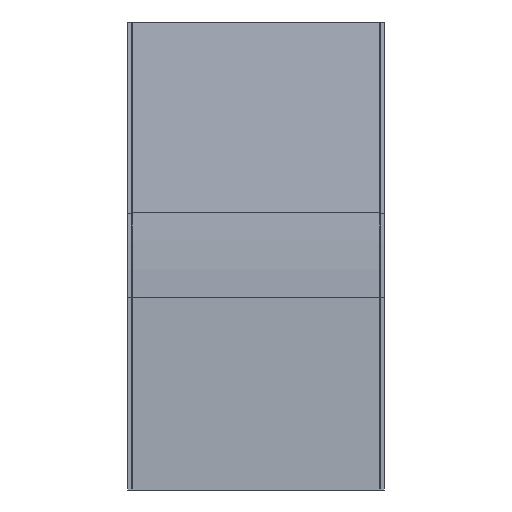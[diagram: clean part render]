
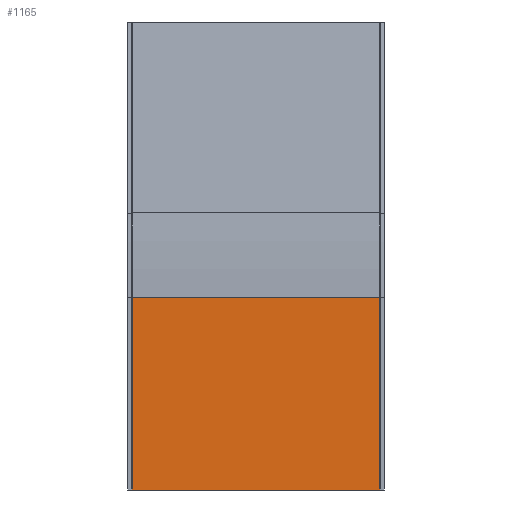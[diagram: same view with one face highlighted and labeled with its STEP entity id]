
A CAD part, front view. The second image highlights one B-rep face of the part: STEP entity #1165.
In plain terms, the highlighted planar face has unit normal (0, -1, 0).
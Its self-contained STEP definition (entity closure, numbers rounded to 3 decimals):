
#35 = EDGE_CURVE ( 'NONE', #598, #1750, #516, .T. ) ;
#305 = CARTESIAN_POINT ( 'NONE',  ( -96.65, -42., 0. ) ) ;
#365 = AXIS2_PLACEMENT_3D ( 'NONE', #2207, #764, #987 ) ;
#439 = DIRECTION ( 'NONE',  ( 0., 0., -1. ) ) ;
#441 = CARTESIAN_POINT ( 'NONE',  ( -96.65, -42., 0. ) ) ;
#516 = LINE ( 'NONE', #2718, #2998 ) ;
#598 = VERTEX_POINT ( 'NONE', #1470 ) ;
#602 = DIRECTION ( 'NONE',  ( -1., 0., 0. ) ) ;
#657 = LINE ( 'NONE', #2573, #2456 ) ;
#707 = CARTESIAN_POINT ( 'NONE',  ( -96.65, -42., 150. ) ) ;
#764 = DIRECTION ( 'NONE',  ( 0., -1., 0. ) ) ;
#900 = DIRECTION ( 'NONE',  ( -1., 0., 0. ) ) ;
#964 = EDGE_CURVE ( 'NONE', #2984, #1040, #2628, .T. ) ;
#987 = DIRECTION ( 'NONE',  ( 1., 0., 0. ) ) ;
#1031 = ORIENTED_EDGE ( 'NONE', *, *, #964, .T. ) ;
#1040 = VERTEX_POINT ( 'NONE', #305 ) ;
#1080 = ORIENTED_EDGE ( 'NONE', *, *, #2877, .T. ) ;
#1158 = EDGE_LOOP ( 'NONE', ( #2185, #2964, #1080, #1031 ) ) ;
#1165 = ADVANCED_FACE ( 'NONE', ( #1556 ), #2244, .T. ) ;
#1311 = DIRECTION ( 'NONE',  ( 0., 0., -1. ) ) ;
#1470 = CARTESIAN_POINT ( 'NONE',  ( 96.65, -42., 150. ) ) ;
#1556 = FACE_OUTER_BOUND ( 'NONE', #1158, .T. ) ;
#1750 = VERTEX_POINT ( 'NONE', #3050 ) ;
#1922 = CARTESIAN_POINT ( 'NONE',  ( -96.65, -42., 150. ) ) ;
#1978 = VECTOR ( 'NONE', #439, 1000. ) ;
#2185 = ORIENTED_EDGE ( 'NONE', *, *, #2213, .F. ) ;
#2207 = CARTESIAN_POINT ( 'NONE',  ( -96.65, -42., 150. ) ) ;
#2213 = EDGE_CURVE ( 'NONE', #1750, #1040, #2915, .T. ) ;
#2244 = PLANE ( 'NONE',  #365 ) ;
#2355 = VECTOR ( 'NONE', #900, 1000. ) ;
#2456 = VECTOR ( 'NONE', #602, 1000. ) ;
#2573 = CARTESIAN_POINT ( 'NONE',  ( -96.65, -42., 150. ) ) ;
#2628 = LINE ( 'NONE', #707, #1978 ) ;
#2718 = CARTESIAN_POINT ( 'NONE',  ( 96.65, -42., 150. ) ) ;
#2877 = EDGE_CURVE ( 'NONE', #598, #2984, #657, .T. ) ;
#2915 = LINE ( 'NONE', #441, #2355 ) ;
#2964 = ORIENTED_EDGE ( 'NONE', *, *, #35, .F. ) ;
#2984 = VERTEX_POINT ( 'NONE', #1922 ) ;
#2998 = VECTOR ( 'NONE', #1311, 1000. ) ;
#3050 = CARTESIAN_POINT ( 'NONE',  ( 96.65, -42., 0. ) ) ;
